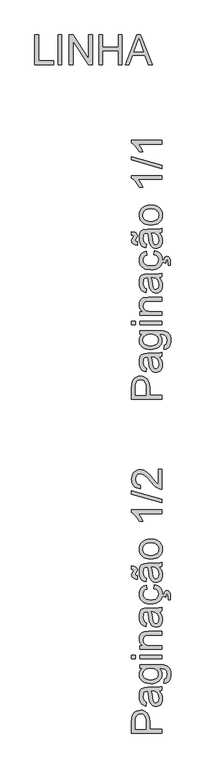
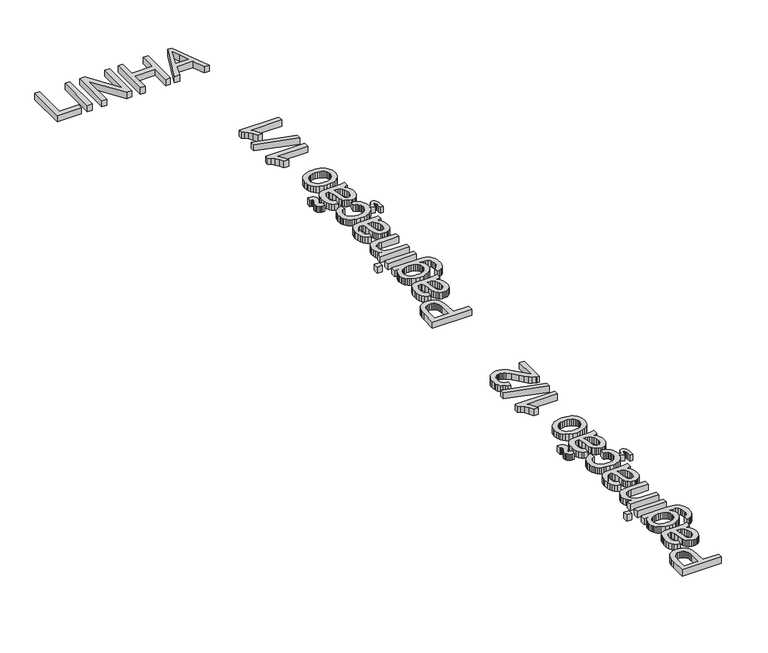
"""IFC4 building model written with IfcOpenShell, lengths in millimetres: proxy geometry, Tabela3D-2LINHAS : Tabela3D-2LINHAS."""

from ifc_helpers import new_model, si_unit, origin, origin_with_axes, place, context, project, spatial, polyline, outline, extrude, source, transform, mapped, element, save


def generic_models_ffd6414f(model_context):
    return source(origin(), model_context, "Body", "SweptSolid", [
        extrude(outline(polyline([(2936.9308298, 7252.3459709), (2334.1929689, 7252.3459709), (2334.1929689, 7475.7239184), (2335.6277087, 7527.7424325), (2339.9319281, 7565.7814308), (2350.6556882, 7605.9357506), (2368.1116889, 7638.9899478), (2393.0908764, 7665.6062102), (2426.3841969, 7686.4467252), (2465.6555999, 7699.9112062), (2508.5690347, 7704.3993666), (2545.5687663, 7701.3689386), (2579.6070479, 7692.2776548), (2610.6838795, 7677.1255152), (2638.7992609, 7655.9125196), (2662.1045853, 7626.7900612), (2678.7512456, 7587.9095328), (2688.7392418, 7539.2709345), (2692.0685738, 7480.8742663), (2692.0685738, 7327.6882035), (2936.9308298, 7327.6882035), (2936.9308298, 7252.3459709)]), holes=[polyline([(2616.7263412, 7327.6882035), (2616.7263412, 7485.2888503), (2614.9972959, 7521.5252268), (2609.8101597, 7552.0962206), (2601.1649328, 7577.0018316), (2589.0616152, 7596.24206), (2573.8221035, 7610.5986549), (2555.7682946, 7620.8533655), (2534.9001885, 7627.0061918), (2511.217785, 7629.057134), (2477.3726415, 7624.2194857), (2448.8249986, 7609.706541), (2427.3406901, 7587.3209216), (2414.6855495, 7558.8652493), (2410.8227885, 7529.8025717), (2409.5352016, 7483.5230167), (2409.5352016, 7327.6882035), (2616.7263412, 7327.6882035)])]), origin_with_axes(), (0.0, 0.0, 1.0), 100.0),
        extrude(outline(polyline([(2880.4241554, 8081.1105296), (2911.2894548, 8045.1132764), (2931.4861763, 8008.0491654), (2942.6330008, 7969.072068), (2946.3486089, 7927.3358557), (2944.1137258, 7893.7896162), (2937.4090764, 7864.3728522), (2926.2346608, 7839.0855635), (2910.590479, 7817.9277503), (2891.4698123, 7801.2213092), (2869.8659421, 7789.288137), (2845.7788685, 7782.1282336), (2819.2085914, 7779.7415992), (2787.97541, 7783.3468427), (2759.6117082, 7794.1625734), (2735.3314965, 7810.8460219), (2716.3487855, 7832.0544189), (2702.0013877, 7856.9784241), (2691.6271155, 7884.808697), (2680.29635, 7949.9973866), (2668.3769734, 8027.0318763), (2654.3974575, 8080.6690712), (2637.6220386, 8081.1105296), (2603.9976242, 8075.9233935), (2591.5448187, 8069.4394733), (2581.9982809, 8060.3619851), (2572.4701372, 8044.671818), (2565.6643203, 8025.5603484), (2560.2196668, 7977.0735014), (2563.8433044, 7932.191898), (2574.7142174, 7900.848352), (2594.8189684, 7879.4744081), (2626.1441203, 7864.5016109), (2616.7263412, 7789.1593783), (2575.5235578, 7802.2375832), (2543.1499422, 7821.753723), (2518.3914839, 7849.5288137), (2500.0341724, 7887.383871), (2488.6666187, 7933.6818201), (2484.8774342, 7986.7855861), (2488.2251603, 8037.7188483), (2498.2683388, 8078.0938973), (2513.3698947, 8108.5361324), (2531.8927531, 8129.670953), (2554.7934073, 8143.687257), (2583.0283505, 8152.7739423), (2648.952804, 8156.4527623), (2742.6891364, 8156.4527623), (2873.5815503, 8160.278735), (2905.9367717, 8165.9441177), (2936.9308298, 8175.2883204), (2936.9308298, 8099.9460878), (2910.7376318, 8087.8795584), (2880.4241554, 8081.1105296)]), holes=[polyline([(2729.7396902, 8081.1105296), (2742.2844662, 8030.4899671), (2752.8426795, 7959.5623184), (2765.0563617, 7894.7415109), (2773.407283, 7877.8741214), (2784.9219894, 7865.3845277), (2798.7175643, 7857.6590058), (2813.9110907, 7855.0838318), (2836.3151042, 7860.6940322), (2854.6724157, 7877.5246335), (2866.9228862, 7905.2077536), (2871.0063763, 7943.3755106), (2866.4998219, 7983.8425301), (2852.9801585, 8019.60066), (2833.0593485, 8048.5897613), (2809.3493539, 8068.7496946), (2784.9219894, 8077.6892271), (2751.0768459, 8080.6690712), (2729.7396902, 8081.1105296)])]), origin_with_axes(), (0.0, 0.0, 1.0), 100.0),
        extrude(outline(polyline([(2974.6019461, 8241.2127739), (2984.0197252, 8316.5550066), (3007.5641729, 8324.8691396), (3023.7509807, 8340.982371), (3036.3325449, 8372.6570108), (3040.5263997, 8414.1173117), (3035.7807219, 8458.3367275), (3029.8486248, 8476.1973984), (3021.5436887, 8491.2253779), (2998.735005, 8514.0340616), (2968.2743758, 8528.0135774), (2935.8639721, 8532.0970675), (2880.4241554, 8533.1639253), (2905.1458255, 8508.0927673), (2922.8041612, 8480.1153416), (2933.3991627, 8449.2316481), (2936.9308298, 8415.4416869), (2932.8197485, 8374.1331373), (2920.4865047, 8337.7634036), (2899.9310982, 8306.3324856), (2871.1535291, 8279.8403834), (2836.6278039, 8258.8205259), (2798.8279288, 8243.806342), (2757.7539041, 8234.7978316), (2713.4057296, 8231.7949949), (2652.5764417, 8237.1844661), (2596.6399843, 8253.3528798), (2571.417075, 8265.3366358), (2549.2383892, 8279.7300188), (2530.1039269, 8296.533029), (2514.0136882, 8315.7456662), (2501.2665771, 8337.0598293), (2492.1614977, 8360.1674171), (2486.69845, 8385.0684296), (2484.8774342, 8411.7628669), (2488.9977125, 8446.996765), (2501.3585475, 8478.9749074), (2521.9599393, 8507.6972942), (2550.8018877, 8533.1639253), (2494.2952132, 8533.1639253), (2494.2952132, 8608.5061579), (2876.4510298, 8608.5061579), (2964.6875264, 8603.35581), (2997.5071989, 8596.9178751), (3022.7944875, 8587.9047662), (3043.1889456, 8576.1003527), (3061.3301265, 8561.2885038), (3077.2180302, 8543.4692197), (3090.8526566, 8522.6425002), (3101.797146, 8499.0198776), (3109.6146384, 8472.812884), (3114.3051338, 8444.0215194), (3115.8686323, 8412.6457837), (3113.6659388, 8375.733424), (3107.0578585, 8342.5458695), (3096.0443913, 8313.0831202), (3080.6255372, 8287.3451761), (3060.782902, 8266.5552449), (3036.4980918, 8251.9365341), (3007.7711065, 8243.4890438), (2974.6019461, 8241.2127739)]), holes=[polyline([(2708.2553816, 8307.1372275), (2745.5080322, 8309.1467829), (2777.3620144, 8315.1754491), (2803.8173284, 8325.2232261), (2824.8739741, 8339.2901139), (2840.9366217, 8356.3920281), (2852.4099414, 8375.5448845), (2859.2939333, 8396.748683), (2861.5885972, 8420.0034236), (2859.3077289, 8443.028238), (2852.4651237, 8464.1308689), (2841.0607819, 8483.3113164), (2825.0947033, 8500.5695805), (2804.2449912, 8514.8296064), (2778.1897489, 8525.0153391), (2746.9289764, 8531.1267788), (2710.4626736, 8533.1639253), (2675.5184826, 8531.0669979), (2645.1452254, 8524.7762158), (2619.3429019, 8514.291579), (2598.1115123, 8499.6130874), (2581.5338299, 8481.9823427), (2569.6926282, 8462.6409468), (2562.5879071, 8441.5888997), (2560.2196668, 8418.8262012), (2562.5511189, 8396.4451803), (2569.5454754, 8375.8024019), (2581.2027361, 8356.8978658), (2597.5229011, 8339.7315722), (2618.432394, 8325.4715464), (2643.8576384, 8315.2858137), (2673.7986343, 8309.174374), (2708.2553816, 8307.1372275)])]), origin_with_axes(), (0.0, 0.0, 1.0), 100.0),
        extrude(outline(polyline([(2409.5352016, 8721.5195068), (2334.1929689, 8721.5195068), (2334.1929689, 8796.8617395), (2409.5352016, 8796.8617395), (2409.5352016, 8721.5195068)])), origin_with_axes(), (0.0, 0.0, 1.0), 100.0),
        extrude(outline(polyline([(2936.9308298, 8721.5195068), (2494.2952132, 8721.5195068), (2494.2952132, 8796.8617395), (2936.9308298, 8796.8617395), (2936.9308298, 8721.5195068)])), origin_with_axes(), (0.0, 0.0, 1.0), 100.0),
        extrude(outline(polyline([(2936.9308298, 8909.8750884), (2494.2952132, 8909.8750884), (2494.2952132, 8985.217321), (2556.0993884, 8985.217321), (2524.9397834, 9011.3921249), (2502.6829227, 9042.8276414), (2489.3288063, 9079.5238704), (2484.8774342, 9121.480812), (2488.4642836, 9158.6184994), (2499.224832, 9192.6291899), (2515.81631, 9220.9928917), (2536.8959483, 9241.1896132), (2562.4085646, 9254.8932175), (2592.2989768, 9263.7775677), (2665.1396118, 9267.7506933), (2936.9308298, 9267.7506933), (2936.9308298, 9192.4084607), (2675.2931549, 9192.4084607), (2636.3344516, 9190.2379569), (2608.6329373, 9183.7264456), (2588.7857037, 9171.7150984), (2573.3898422, 9153.0450872), (2563.5122106, 9129.1143634), (2560.2196668, 9101.3208787), (2562.0682738, 9078.4432171), (2567.6140949, 9057.1934333), (2576.85713, 9037.5715274), (2589.7973792, 9019.5774993), (2607.9063704, 9004.5449213), (2632.6556316, 8993.8073656), (2664.0451629, 8987.3648321), (2702.0749641, 8985.217321), (2936.9308298, 8985.217321), (2936.9308298, 8909.8750884)])), origin_with_axes(), (0.0, 0.0, 1.0), 100.0),
        extrude(outline(polyline([(2880.4241554, 9653.8796354), (2911.2894548, 9617.8823822), (2931.4861763, 9580.8182712), (2942.6330008, 9541.8411738), (2946.3486089, 9500.1049614), (2944.1137258, 9466.558722), (2937.4090764, 9437.141958), (2926.2346608, 9411.8546693), (2910.590479, 9390.6968561), (2891.4698123, 9373.990415), (2869.8659421, 9362.0572427), (2845.7788685, 9354.8973394), (2819.2085914, 9352.510705), (2787.97541, 9356.1159485), (2759.6117082, 9366.9316792), (2735.3314965, 9383.6151277), (2716.3487855, 9404.8235247), (2702.0013877, 9429.7475299), (2691.6271155, 9457.5778028), (2680.29635, 9522.7664923), (2668.3769734, 9599.8009821), (2654.3974575, 9653.438177), (2637.6220386, 9653.8796354), (2603.9976242, 9648.6924993), (2591.5448187, 9642.2085791), (2581.9982809, 9633.1310909), (2572.4701372, 9617.4409238), (2565.6643203, 9598.3294541), (2560.2196668, 9549.8426072), (2563.8433044, 9504.9610038), (2574.7142174, 9473.6174578), (2594.8189684, 9452.2435139), (2626.1441203, 9437.2707167), (2616.7263412, 9361.928484), (2575.5235578, 9375.006689), (2543.1499422, 9394.5228288), (2518.3914839, 9422.2979195), (2500.0341724, 9460.1529768), (2488.6666187, 9506.4509259), (2484.8774342, 9559.5546919), (2488.2251603, 9610.4879541), (2498.2683388, 9650.8630031), (2513.3698947, 9681.3052382), (2531.8927531, 9702.4400588), (2554.7934073, 9716.4563628), (2583.0283505, 9725.5430481), (2648.952804, 9729.221868), (2742.6891364, 9729.221868), (2873.5815503, 9733.0478408), (2905.9367717, 9738.7132235), (2936.9308298, 9748.0574262), (2936.9308298, 9672.7151936), (2910.7376318, 9660.6486641), (2880.4241554, 9653.8796354)]), holes=[polyline([(2729.7396902, 9653.8796354), (2742.2844662, 9603.2590729), (2752.8426795, 9532.3314242), (2765.0563617, 9467.5106167), (2773.407283, 9450.6432272), (2784.9219894, 9438.1536334), (2798.7175643, 9430.4281115), (2813.9110907, 9427.8529376), (2836.3151042, 9433.463138), (2854.6724157, 9450.2937393), (2866.9228862, 9477.9768594), (2871.0063763, 9516.1446164), (2866.4998219, 9556.6116359), (2852.9801585, 9592.3697658), (2833.0593485, 9621.358867), (2809.3493539, 9641.5188004), (2784.9219894, 9650.4583329), (2751.0768459, 9653.438177), (2729.7396902, 9653.8796354)])]), origin_with_axes(), (0.0, 0.0, 1.0), 100.0),
        extrude(outline(polyline([(2776.8285855, 10115.3508102), (2786.2463646, 10190.6930428), (2821.7975609, 10182.4984713), (2853.25607, 10169.6869809), (2880.621892, 10152.2585713), (2903.8950267, 10130.2132428), (2922.4684689, 10104.4798972), (2935.7352134, 10075.9874367), (2943.69526, 10044.7358612), (2946.3486089, 10010.7251707), (2946.1709626, 10008.6973547), (2977.8393077, 9998.2171829), (2984.7554892, 10032.154297), (2997.8520882, 10057.1518785), (3014.958601, 10072.54774), (3033.9045238, 10077.6796939), (3047.8288573, 10075.8218898), (3060.9070622, 10070.2484776), (3073.1391386, 10060.9594572), (3084.5250863, 10047.9548287), (3094.1176093, 10031.1978038), (3100.9694115, 10010.6515943), (3106.4508532, 9958.1916218), (3106.4508532, 9898.7418914), (3059.3619578, 9898.7418914), (3059.3619578, 9940.3861333), (3057.1914541, 9975.8499576), (3050.6799427, 9998.9529469), (3043.3223028, 10008.554667), (3034.493135, 10011.7552403), (3023.8245571, 10006.6048924), (3015.878306, 9987.548605), (3012.2730625, 9943.476342), (2941.1816396, 9963.4708047), (2931.5413586, 9930.5820781), (2913.0322957, 9897.0634298), (2887.1196077, 9867.9133802), (2854.2907381, 9844.3183487), (2815.0331307, 9827.4647548), (2769.3467855, 9817.3525985), (2717.2317023, 9813.9818797), (2650.1852087, 9819.7392329), (2620.0142866, 9826.9359245), (2592.0782476, 9837.0112926), (2566.9381117, 9850.0343152), (2545.1548991, 9866.0739702), (2526.7286096, 9885.1302576), (2511.6592434, 9907.2031773), (2499.9422019, 9931.2948495), (2491.5728865, 9956.4073942), (2486.5512972, 9982.5408114), (2484.8774342, 10009.6951012), (2487.1766966, 10043.1217789), (2494.074484, 10073.3570804), (2505.5707964, 10100.4010056), (2521.6656337, 10124.2535545), (2541.9911139, 10144.5100568), (2566.1793551, 10160.7658425), (2594.2303572, 10173.0209114), (2626.1441203, 10181.2752637), (2635.5618994, 10105.9330311), (2602.6916431, 10092.266215), (2579.1288013, 10070.9842416), (2564.9469504, 10043.2643332), (2560.2196668, 10010.2837123), (2562.5465204, 9984.683724), (2569.5270813, 9961.5945303), (2581.1613494, 9941.0161312), (2597.4493247, 9922.9485267), (2618.7680863, 9908.2378454), (2645.4947133, 9897.7302159), (2677.6292055, 9891.4256382), (2715.1715631, 9889.3241123), (2753.2795393, 9891.379653), (2785.7865121, 9897.5462749), (2812.6924815, 9907.8239782), (2833.9974476, 9922.2127627), (2850.1888539, 9939.9216822), (2861.7541441, 9960.1597905), (2868.6933183, 9982.9270875), (2871.0063763, 10008.2235732), (2865.230629, 10047.2374588), (2858.0109448, 10064.1094468), (2847.903387, 10079.2247982), (2834.7975909, 10092.1604489), (2818.583192, 10102.4933344), (2799.2601902, 10110.2234549), (2776.8285855, 10115.3508102)])), origin_with_axes(), (0.0, 0.0, 1.0), 100.0),
        extrude(outline(polyline([(2447.2063179, 10303.7063917), (2422.7513622, 10305.058358), (2400.8899747, 10309.4085626), (2381.6221552, 10316.7570055), (2364.9479037, 10327.1036866), (2351.4926198, 10339.6208715), (2341.8817026, 10353.7751312), (2336.1151524, 10369.5664659), (2334.1929689, 10386.9948754), (2340.2630219, 10414.8067542), (2358.4731806, 10447.3275226), (2368.5163591, 10464.5076118), (2371.8640852, 10477.7881518), (2369.969493, 10487.0035958), (2364.2857161, 10493.7542304), (2352.9733448, 10498.4447258), (2334.1929689, 10501.4797523), (2334.1929689, 10567.4042058), (2383.6363091, 10560.8375122), (2403.0604784, 10553.512062), (2418.9529806, 10543.4918762), (2431.3138157, 10531.3563688), (2440.1429836, 10517.6849542), (2445.4404843, 10502.4776322), (2447.2063179, 10485.7344029), (2441.4673587, 10457.7385831), (2424.2504814, 10426.1375197), (2413.2140215, 10407.3019615), (2409.5352016, 10394.3525153), (2411.9264345, 10384.346125), (2419.1001334, 10376.3998739), (2430.8355691, 10371.1759496), (2447.2063179, 10369.6308452), (2447.2063179, 10303.7063917)])), origin_with_axes(), (0.0, 0.0, 1.0), 100.0),
        extrude(outline(polyline([(2880.4241554, 10539.1508686), (2911.2894548, 10503.1536154), (2931.4861763, 10466.0895044), (2942.6330008, 10427.112407), (2946.3486089, 10385.3761946), (2944.1137258, 10351.8299552), (2937.4090764, 10322.4131912), (2926.2346608, 10297.1259025), (2910.590479, 10275.9680893), (2891.4698123, 10259.2616482), (2869.8659421, 10247.3284759), (2845.7788685, 10240.1685726), (2819.2085914, 10237.7819382), (2787.97541, 10241.3871817), (2759.6117082, 10252.2029124), (2735.3314965, 10268.8863609), (2716.3487855, 10290.0947579), (2702.0013877, 10315.0187631), (2691.6271155, 10342.849036), (2680.29635, 10408.0377255), (2668.3769734, 10485.0722153), (2654.3974575, 10538.7094102), (2637.6220386, 10539.1508686), (2603.9976242, 10533.9637325), (2591.5448187, 10527.4798123), (2581.9982809, 10518.4023241), (2572.4701372, 10502.712157), (2565.6643203, 10483.6006873), (2560.2196668, 10435.1138404), (2563.8433044, 10390.232237), (2574.7142174, 10358.888691), (2594.8189684, 10337.5147471), (2626.1441203, 10322.5419499), (2616.7263412, 10247.1997172), (2575.5235578, 10260.2779222), (2543.1499422, 10279.794062), (2518.3914839, 10307.5691526), (2500.0341724, 10345.42421), (2488.6666187, 10391.722159), (2484.8774342, 10444.825925), (2488.2251603, 10495.7591873), (2498.2683388, 10536.1342363), (2513.3698947, 10566.5764714), (2531.8927531, 10587.711292), (2554.7934073, 10601.727596), (2583.0283505, 10610.8142813), (2648.952804, 10614.4931012), (2742.6891364, 10614.4931012), (2873.5815503, 10618.319074), (2905.9367717, 10623.9844567), (2936.9308298, 10633.3286594), (2936.9308298, 10557.9864268), (2910.7376318, 10545.9198973), (2880.4241554, 10539.1508686)]), holes=[polyline([(2729.7396902, 10539.1508686), (2742.2844662, 10488.5303061), (2752.8426795, 10417.6026574), (2765.0563617, 10352.7818499), (2773.407283, 10335.9144604), (2784.9219894, 10323.4248666), (2798.7175643, 10315.6993447), (2813.9110907, 10313.1241708), (2836.3151042, 10318.7343712), (2854.6724157, 10335.5649725), (2866.9228862, 10363.2480926), (2871.0063763, 10401.4158496), (2866.4998219, 10441.8828691), (2852.9801585, 10477.640999), (2833.0593485, 10506.6301002), (2809.3493539, 10526.7900336), (2784.9219894, 10535.7295661), (2751.0768459, 10538.7094102), (2729.7396902, 10539.1508686)])]), origin_with_axes(), (0.0, 0.0, 1.0), 100.0),
        extrude(outline(polyline([(2715.6130215, 10699.2531129), (2658.2878096, 10703.327406), (2608.8904547, 10715.5502853), (2567.4209568, 10735.9217508), (2533.8793159, 10764.4418025), (2512.4409927, 10793.1549922), (2497.1279046, 10824.8480261), (2487.9400518, 10859.5209041), (2484.8774342, 10897.1736263), (2488.6068379, 10938.7396932), (2499.7950491, 10976.3234376), (2518.4420677, 11009.9248593), (2544.5478938, 11039.5439585), (2577.2296105, 11063.7184041), (2615.6043012, 11080.9858652), (2659.6719656, 11091.3463419), (2709.432604, 11094.7998341), (2749.7616677, 11093.2731238), (2785.5473888, 11088.692993), (2816.7897673, 11081.0594416), (2843.4888031, 11070.3724696), (2866.5504056, 11056.7654344), (2886.8804844, 11040.3716929), (2904.4790393, 11021.1912454), (2919.3460705, 10999.2240918), (2931.159681, 10975.3255577), (2939.5979743, 10950.3509687), (2944.6609503, 10924.3003249), (2946.3486089, 10897.1736263), (2942.6330008, 10855.0005541), (2931.4861763, 10817.0673219), (2912.9081356, 10783.3739296), (2886.8988785, 10753.9203774), (2853.8998635, 10730.0034492), (2814.352549, 10712.919929), (2768.256935, 10702.6698169), (2715.6130215, 10699.2531129)]), holes=[polyline([(2715.4658687, 10774.5953455), (2752.0103464, 10776.7750463), (2783.6527965, 10783.3141488), (2810.3932191, 10794.2126529), (2832.231614, 10809.4705587), (2849.1955725, 10828.0302053), (2861.3126857, 10848.8339322), (2868.5829537, 10871.8817391), (2871.0063763, 10897.1736263), (2868.5691581, 10922.3367548), (2861.2575034, 10945.2925913), (2849.0714123, 10966.0411358), (2832.0108848, 10984.5823884), (2809.9563592, 10999.8402941), (2782.7882739, 11010.7387982), (2750.5066288, 11017.2779007), (2713.111424, 11019.4576015), (2677.7257746, 11017.2641051), (2646.9110589, 11010.6836159), (2620.6672771, 10999.7161339), (2598.9944291, 10984.3616592), (2582.0304706, 10965.7514287), (2569.9133574, 10945.0166798), (2562.6430894, 10922.1574123), (2560.2196668, 10897.1736263), (2562.6338924, 10871.8817391), (2569.8765692, 10848.8339322), (2581.9476971, 10828.0302053), (2598.8472763, 10809.4705587), (2620.6212919, 10794.2126529), (2647.3157291, 10783.3141488), (2678.9305881, 10776.7750463), (2715.4658687, 10774.5953455)])]), origin_with_axes(), (0.0, 0.0, 1.0), 100.0),
        extrude(outline(polyline([(2936.9308298, 11678.7021369), (2936.9308298, 11603.3599043), (2467.2190984, 11603.3599043), (2492.6581384, 11571.9059937), (2518.0603901, 11531.9907972), (2540.2620685, 11490.0890379), (2556.0993884, 11452.675439), (2484.8774342, 11452.675439), (2452.6877596, 11511.849258), (2414.3912439, 11563.113614), (2373.666707, 11603.5254512), (2334.1929689, 11630.1417135), (2334.1929689, 11678.7021369), (2936.9308298, 11678.7021369)])), origin_with_axes(), (0.0, 0.0, 1.0), 100.0),
        extrude(outline(polyline([(2936.9308298, 11819.968823), (2334.1929689, 11989.4888464), (2334.1929689, 12057.4734391), (2936.9308298, 11887.9534157), (2936.9308298, 11819.968823)])), origin_with_axes(), (0.0, 0.0, 1.0), 100.0),
        extrude(outline(polyline([(2936.9308298, 12375.6177885), (2936.9308298, 12300.2755559), (2467.2190984, 12300.2755559), (2492.6581384, 12268.8216453), (2518.0603901, 12228.9064489), (2540.2620685, 12187.0046896), (2556.0993884, 12149.5910907), (2484.8774342, 12149.5910907), (2452.6877596, 12208.7649096), (2414.3912439, 12260.0292657), (2373.666707, 12300.4411028), (2334.1929689, 12327.0573652), (2334.1929689, 12375.6177885), (2936.9308298, 12375.6177885)])), origin_with_axes(), (0.0, 0.0, 1.0), 100.0),
        extrude(outline(polyline([(2936.9308298, 632.3459709), (2334.1929689, 632.3459709), (2334.1929689, 855.7239184), (2335.6277087, 907.7424325), (2339.9319281, 945.7814308), (2350.6556882, 985.9357506), (2368.1116889, 1018.9899478), (2393.0908764, 1045.6062102), (2426.3841969, 1066.4467252), (2465.6555999, 1079.9112062), (2508.5690347, 1084.3993666), (2545.5687663, 1081.3689386), (2579.6070479, 1072.2776548), (2610.6838795, 1057.1255152), (2638.7992609, 1035.9125196), (2662.1045853, 1006.7900612), (2678.7512456, 967.9095328), (2688.7392418, 919.2709345), (2692.0685738, 860.8742663), (2692.0685738, 707.6882035), (2936.9308298, 707.6882035), (2936.9308298, 632.3459709)]), holes=[polyline([(2616.7263412, 707.6882035), (2616.7263412, 865.2888503), (2614.9972959, 901.5252268), (2609.8101597, 932.0962206), (2601.1649328, 957.0018316), (2589.0616152, 976.24206), (2573.8221035, 990.5986549), (2555.7682946, 1000.8533655), (2534.9001885, 1007.0061918), (2511.217785, 1009.057134), (2477.3726415, 1004.2194857), (2448.8249986, 989.706541), (2427.3406901, 967.3209216), (2414.6855495, 938.8652493), (2410.8227885, 909.8025717), (2409.5352016, 863.5230167), (2409.5352016, 707.6882035), (2616.7263412, 707.6882035)])]), origin_with_axes(), (0.0, 0.0, 1.0), 100.0),
        extrude(outline(polyline([(2880.4241554, 1461.1105296), (2911.2894548, 1425.1132764), (2931.4861763, 1388.0491654), (2942.6330008, 1349.072068), (2946.3486089, 1307.3358557), (2944.1137258, 1273.7896162), (2937.4090764, 1244.3728522), (2926.2346608, 1219.0855635), (2910.590479, 1197.9277503), (2891.4698123, 1181.2213092), (2869.8659421, 1169.288137), (2845.7788685, 1162.1282336), (2819.2085914, 1159.7415992), (2787.97541, 1163.3468427), (2759.6117082, 1174.1625734), (2735.3314965, 1190.8460219), (2716.3487855, 1212.0544189), (2702.0013877, 1236.9784241), (2691.6271155, 1264.808697), (2680.29635, 1329.9973866), (2668.3769734, 1407.0318763), (2654.3974575, 1460.6690712), (2637.6220386, 1461.1105296), (2603.9976242, 1455.9233935), (2591.5448187, 1449.4394733), (2581.9982809, 1440.3619851), (2572.4701372, 1424.671818), (2565.6643203, 1405.5603484), (2560.2196668, 1357.0735014), (2563.8433044, 1312.191898), (2574.7142174, 1280.848352), (2594.8189684, 1259.4744081), (2626.1441203, 1244.5016109), (2616.7263412, 1169.1593783), (2575.5235578, 1182.2375832), (2543.1499422, 1201.753723), (2518.3914839, 1229.5288137), (2500.0341724, 1267.383871), (2488.6666187, 1313.6818201), (2484.8774342, 1366.7855861), (2488.2251603, 1417.7188483), (2498.2683388, 1458.0938973), (2513.3698947, 1488.5361324), (2531.8927531, 1509.670953), (2554.7934073, 1523.687257), (2583.0283505, 1532.7739423), (2648.952804, 1536.4527623), (2742.6891364, 1536.4527623), (2873.5815503, 1540.278735), (2905.9367717, 1545.9441177), (2936.9308298, 1555.2883204), (2936.9308298, 1479.9460878), (2910.7376318, 1467.8795584), (2880.4241554, 1461.1105296)]), holes=[polyline([(2729.7396902, 1461.1105296), (2742.2844662, 1410.4899671), (2752.8426795, 1339.5623184), (2765.0563617, 1274.7415109), (2773.407283, 1257.8741214), (2784.9219894, 1245.3845277), (2798.7175643, 1237.6590058), (2813.9110907, 1235.0838318), (2836.3151042, 1240.6940322), (2854.6724157, 1257.5246335), (2866.9228862, 1285.2077536), (2871.0063763, 1323.3755106), (2866.4998219, 1363.8425301), (2852.9801585, 1399.60066), (2833.0593485, 1428.5897613), (2809.3493539, 1448.7496946), (2784.9219894, 1457.6892271), (2751.0768459, 1460.6690712), (2729.7396902, 1461.1105296)])]), origin_with_axes(), (0.0, 0.0, 1.0), 100.0),
        extrude(outline(polyline([(2974.6019461, 1621.2127739), (2984.0197252, 1696.5550066), (3007.5641729, 1704.8691396), (3023.7509807, 1720.982371), (3036.3325449, 1752.6570108), (3040.5263997, 1794.1173117), (3035.7807219, 1838.3367275), (3029.8486248, 1856.1973984), (3021.5436887, 1871.2253779), (2998.735005, 1894.0340616), (2968.2743758, 1908.0135774), (2935.8639721, 1912.0970675), (2880.4241554, 1913.1639253), (2905.1458255, 1888.0927673), (2922.8041612, 1860.1153416), (2933.3991627, 1829.2316481), (2936.9308298, 1795.4416869), (2932.8197485, 1754.1331373), (2920.4865047, 1717.7634036), (2899.9310982, 1686.3324856), (2871.1535291, 1659.8403834), (2836.6278039, 1638.8205259), (2798.8279288, 1623.806342), (2757.7539041, 1614.7978316), (2713.4057296, 1611.7949949), (2652.5764417, 1617.1844661), (2596.6399843, 1633.3528798), (2571.417075, 1645.3366358), (2549.2383892, 1659.7300188), (2530.1039269, 1676.533029), (2514.0136882, 1695.7456662), (2501.2665771, 1717.0598293), (2492.1614977, 1740.1674171), (2486.69845, 1765.0684296), (2484.8774342, 1791.7628669), (2488.9977125, 1826.996765), (2501.3585475, 1858.9749074), (2521.9599393, 1887.6972942), (2550.8018877, 1913.1639253), (2494.2952132, 1913.1639253), (2494.2952132, 1988.5061579), (2876.4510298, 1988.5061579), (2964.6875264, 1983.35581), (2997.5071989, 1976.9178751), (3022.7944875, 1967.9047662), (3043.1889456, 1956.1003527), (3061.3301265, 1941.2885038), (3077.2180302, 1923.4692197), (3090.8526566, 1902.6425002), (3101.797146, 1879.0198776), (3109.6146384, 1852.812884), (3114.3051338, 1824.0215194), (3115.8686323, 1792.6457837), (3113.6659388, 1755.733424), (3107.0578585, 1722.5458695), (3096.0443913, 1693.0831202), (3080.6255372, 1667.3451761), (3060.782902, 1646.5552449), (3036.4980918, 1631.9365341), (3007.7711065, 1623.4890438), (2974.6019461, 1621.2127739)]), holes=[polyline([(2708.2553816, 1687.1372275), (2745.5080322, 1689.1467829), (2777.3620144, 1695.1754491), (2803.8173284, 1705.2232261), (2824.8739741, 1719.2901139), (2840.9366217, 1736.3920281), (2852.4099414, 1755.5448845), (2859.2939333, 1776.748683), (2861.5885972, 1800.0034236), (2859.3077289, 1823.028238), (2852.4651237, 1844.1308689), (2841.0607819, 1863.3113164), (2825.0947033, 1880.5695805), (2804.2449912, 1894.8296064), (2778.1897489, 1905.0153391), (2746.9289764, 1911.1267788), (2710.4626736, 1913.1639253), (2675.5184826, 1911.0669979), (2645.1452254, 1904.7762158), (2619.3429019, 1894.291579), (2598.1115123, 1879.6130874), (2581.5338299, 1861.9823427), (2569.6926282, 1842.6409468), (2562.5879071, 1821.5888997), (2560.2196668, 1798.8262012), (2562.5511189, 1776.4451803), (2569.5454754, 1755.8024019), (2581.2027361, 1736.8978658), (2597.5229011, 1719.7315722), (2618.432394, 1705.4715464), (2643.8576384, 1695.2858137), (2673.7986343, 1689.174374), (2708.2553816, 1687.1372275)])]), origin_with_axes(), (0.0, 0.0, 1.0), 100.0),
        extrude(outline(polyline([(2409.5352016, 2101.5195068), (2334.1929689, 2101.5195068), (2334.1929689, 2176.8617395), (2409.5352016, 2176.8617395), (2409.5352016, 2101.5195068)])), origin_with_axes(), (0.0, 0.0, 1.0), 100.0),
        extrude(outline(polyline([(2936.9308298, 2101.5195068), (2494.2952132, 2101.5195068), (2494.2952132, 2176.8617395), (2936.9308298, 2176.8617395), (2936.9308298, 2101.5195068)])), origin_with_axes(), (0.0, 0.0, 1.0), 100.0),
        extrude(outline(polyline([(2936.9308298, 2289.8750884), (2494.2952132, 2289.8750884), (2494.2952132, 2365.217321), (2556.0993884, 2365.217321), (2524.9397834, 2391.3921249), (2502.6829227, 2422.8276414), (2489.3288063, 2459.5238704), (2484.8774342, 2501.480812), (2488.4642836, 2538.6184994), (2499.224832, 2572.6291899), (2515.81631, 2600.9928917), (2536.8959483, 2621.1896132), (2562.4085646, 2634.8932175), (2592.2989768, 2643.7775677), (2665.1396118, 2647.7506933), (2936.9308298, 2647.7506933), (2936.9308298, 2572.4084607), (2675.2931549, 2572.4084607), (2636.3344516, 2570.2379569), (2608.6329373, 2563.7264456), (2588.7857037, 2551.7150984), (2573.3898422, 2533.0450872), (2563.5122106, 2509.1143634), (2560.2196668, 2481.3208787), (2562.0682738, 2458.4432171), (2567.6140949, 2437.1934333), (2576.85713, 2417.5715274), (2589.7973792, 2399.5774993), (2607.9063704, 2384.5449213), (2632.6556316, 2373.8073656), (2664.0451629, 2367.3648321), (2702.0749641, 2365.217321), (2936.9308298, 2365.217321), (2936.9308298, 2289.8750884)])), origin_with_axes(), (0.0, 0.0, 1.0), 100.0),
        extrude(outline(polyline([(2880.4241554, 3033.8796354), (2911.2894548, 2997.8823822), (2931.4861763, 2960.8182712), (2942.6330008, 2921.8411738), (2946.3486089, 2880.1049614), (2944.1137258, 2846.558722), (2937.4090764, 2817.141958), (2926.2346608, 2791.8546693), (2910.590479, 2770.6968561), (2891.4698123, 2753.990415), (2869.8659421, 2742.0572427), (2845.7788685, 2734.8973394), (2819.2085914, 2732.510705), (2787.97541, 2736.1159485), (2759.6117082, 2746.9316792), (2735.3314965, 2763.6151277), (2716.3487855, 2784.8235247), (2702.0013877, 2809.7475299), (2691.6271155, 2837.5778028), (2680.29635, 2902.7664923), (2668.3769734, 2979.8009821), (2654.3974575, 3033.438177), (2637.6220386, 3033.8796354), (2603.9976242, 3028.6924993), (2591.5448187, 3022.2085791), (2581.9982809, 3013.1310909), (2572.4701372, 2997.4409238), (2565.6643203, 2978.3294541), (2560.2196668, 2929.8426072), (2563.8433044, 2884.9610038), (2574.7142174, 2853.6174578), (2594.8189684, 2832.2435139), (2626.1441203, 2817.2707167), (2616.7263412, 2741.928484), (2575.5235578, 2755.006689), (2543.1499422, 2774.5228288), (2518.3914839, 2802.2979195), (2500.0341724, 2840.1529768), (2488.6666187, 2886.4509259), (2484.8774342, 2939.5546919), (2488.2251603, 2990.4879541), (2498.2683388, 3030.8630031), (2513.3698947, 3061.3052382), (2531.8927531, 3082.4400588), (2554.7934073, 3096.4563628), (2583.0283505, 3105.5430481), (2648.952804, 3109.221868), (2742.6891364, 3109.221868), (2873.5815503, 3113.0478408), (2905.9367717, 3118.7132235), (2936.9308298, 3128.0574262), (2936.9308298, 3052.7151936), (2910.7376318, 3040.6486641), (2880.4241554, 3033.8796354)]), holes=[polyline([(2729.7396902, 3033.8796354), (2742.2844662, 2983.2590729), (2752.8426795, 2912.3314242), (2765.0563617, 2847.5106167), (2773.407283, 2830.6432272), (2784.9219894, 2818.1536334), (2798.7175643, 2810.4281115), (2813.9110907, 2807.8529376), (2836.3151042, 2813.463138), (2854.6724157, 2830.2937393), (2866.9228862, 2857.9768594), (2871.0063763, 2896.1446164), (2866.4998219, 2936.6116359), (2852.9801585, 2972.3697658), (2833.0593485, 3001.358867), (2809.3493539, 3021.5188004), (2784.9219894, 3030.4583329), (2751.0768459, 3033.438177), (2729.7396902, 3033.8796354)])]), origin_with_axes(), (0.0, 0.0, 1.0), 100.0),
        extrude(outline(polyline([(2776.8285855, 3495.3508102), (2786.2463646, 3570.6930428), (2821.7975609, 3562.4984713), (2853.25607, 3549.6869809), (2880.621892, 3532.2585713), (2903.8950267, 3510.2132428), (2922.4684689, 3484.4798972), (2935.7352134, 3455.9874367), (2943.69526, 3424.7358612), (2946.3486089, 3390.7251707), (2946.1709626, 3388.6973547), (2977.8393077, 3378.2171829), (2984.7554892, 3412.154297), (2997.8520882, 3437.1518785), (3014.958601, 3452.54774), (3033.9045238, 3457.6796939), (3047.8288573, 3455.8218898), (3060.9070622, 3450.2484776), (3073.1391386, 3440.9594572), (3084.5250863, 3427.9548287), (3094.1176093, 3411.1978038), (3100.9694115, 3390.6515943), (3106.4508532, 3338.1916218), (3106.4508532, 3278.7418914), (3059.3619578, 3278.7418914), (3059.3619578, 3320.3861333), (3057.1914541, 3355.8499576), (3050.6799427, 3378.9529469), (3043.3223028, 3388.554667), (3034.493135, 3391.7552403), (3023.8245571, 3386.6048924), (3015.878306, 3367.548605), (3012.2730625, 3323.476342), (2941.1816396, 3343.4708047), (2931.5413586, 3310.5820781), (2913.0322957, 3277.0634298), (2887.1196077, 3247.9133802), (2854.2907381, 3224.3183487), (2815.0331307, 3207.4647548), (2769.3467855, 3197.3525985), (2717.2317023, 3193.9818797), (2650.1852087, 3199.7392329), (2620.0142866, 3206.9359245), (2592.0782476, 3217.0112926), (2566.9381117, 3230.0343152), (2545.1548991, 3246.0739702), (2526.7286096, 3265.1302576), (2511.6592434, 3287.2031773), (2499.9422019, 3311.2948495), (2491.5728865, 3336.4073942), (2486.5512972, 3362.5408114), (2484.8774342, 3389.6951012), (2487.1766966, 3423.1217789), (2494.074484, 3453.3570804), (2505.5707964, 3480.4010056), (2521.6656337, 3504.2535545), (2541.9911139, 3524.5100568), (2566.1793551, 3540.7658425), (2594.2303572, 3553.0209114), (2626.1441203, 3561.2752637), (2635.5618994, 3485.9330311), (2602.6916431, 3472.266215), (2579.1288013, 3450.9842416), (2564.9469504, 3423.2643332), (2560.2196668, 3390.2837123), (2562.5465204, 3364.683724), (2569.5270813, 3341.5945303), (2581.1613494, 3321.0161312), (2597.4493247, 3302.9485267), (2618.7680863, 3288.2378454), (2645.4947133, 3277.7302159), (2677.6292055, 3271.4256382), (2715.1715631, 3269.3241123), (2753.2795393, 3271.379653), (2785.7865121, 3277.5462749), (2812.6924815, 3287.8239782), (2833.9974476, 3302.2127627), (2850.1888539, 3319.9216822), (2861.7541441, 3340.1597905), (2868.6933183, 3362.9270875), (2871.0063763, 3388.2235732), (2865.230629, 3427.2374588), (2858.0109448, 3444.1094468), (2847.903387, 3459.2247982), (2834.7975909, 3472.1604489), (2818.583192, 3482.4933344), (2799.2601902, 3490.2234549), (2776.8285855, 3495.3508102)])), origin_with_axes(), (0.0, 0.0, 1.0), 100.0),
        extrude(outline(polyline([(2447.2063179, 3683.7063917), (2422.7513622, 3685.058358), (2400.8899747, 3689.4085626), (2381.6221552, 3696.7570055), (2364.9479037, 3707.1036866), (2351.4926198, 3719.6208715), (2341.8817026, 3733.7751312), (2336.1151524, 3749.5664659), (2334.1929689, 3766.9948754), (2340.2630219, 3794.8067542), (2358.4731806, 3827.3275226), (2368.5163591, 3844.5076118), (2371.8640852, 3857.7881518), (2369.969493, 3867.0035958), (2364.2857161, 3873.7542304), (2352.9733448, 3878.4447258), (2334.1929689, 3881.4797523), (2334.1929689, 3947.4042058), (2383.6363091, 3940.8375122), (2403.0604784, 3933.512062), (2418.9529806, 3923.4918762), (2431.3138157, 3911.3563688), (2440.1429836, 3897.6849542), (2445.4404843, 3882.4776322), (2447.2063179, 3865.7344029), (2441.4673587, 3837.7385831), (2424.2504814, 3806.1375197), (2413.2140215, 3787.3019615), (2409.5352016, 3774.3525153), (2411.9264345, 3764.346125), (2419.1001334, 3756.3998739), (2430.8355691, 3751.1759496), (2447.2063179, 3749.6308452), (2447.2063179, 3683.7063917)])), origin_with_axes(), (0.0, 0.0, 1.0), 100.0),
        extrude(outline(polyline([(2880.4241554, 3919.1508686), (2911.2894548, 3883.1536154), (2931.4861763, 3846.0895044), (2942.6330008, 3807.112407), (2946.3486089, 3765.3761946), (2944.1137258, 3731.8299552), (2937.4090764, 3702.4131912), (2926.2346608, 3677.1259025), (2910.590479, 3655.9680893), (2891.4698123, 3639.2616482), (2869.8659421, 3627.3284759), (2845.7788685, 3620.1685726), (2819.2085914, 3617.7819382), (2787.97541, 3621.3871817), (2759.6117082, 3632.2029124), (2735.3314965, 3648.8863609), (2716.3487855, 3670.0947579), (2702.0013877, 3695.0187631), (2691.6271155, 3722.849036), (2680.29635, 3788.0377255), (2668.3769734, 3865.0722153), (2654.3974575, 3918.7094102), (2637.6220386, 3919.1508686), (2603.9976242, 3913.9637325), (2591.5448187, 3907.4798123), (2581.9982809, 3898.4023241), (2572.4701372, 3882.712157), (2565.6643203, 3863.6006873), (2560.2196668, 3815.1138404), (2563.8433044, 3770.232237), (2574.7142174, 3738.888691), (2594.8189684, 3717.5147471), (2626.1441203, 3702.5419499), (2616.7263412, 3627.1997172), (2575.5235578, 3640.2779222), (2543.1499422, 3659.794062), (2518.3914839, 3687.5691526), (2500.0341724, 3725.42421), (2488.6666187, 3771.722159), (2484.8774342, 3824.825925), (2488.2251603, 3875.7591873), (2498.2683388, 3916.1342363), (2513.3698947, 3946.5764714), (2531.8927531, 3967.711292), (2554.7934073, 3981.727596), (2583.0283505, 3990.8142813), (2648.952804, 3994.4931012), (2742.6891364, 3994.4931012), (2873.5815503, 3998.319074), (2905.9367717, 4003.9844567), (2936.9308298, 4013.3286594), (2936.9308298, 3937.9864268), (2910.7376318, 3925.9198973), (2880.4241554, 3919.1508686)]), holes=[polyline([(2729.7396902, 3919.1508686), (2742.2844662, 3868.5303061), (2752.8426795, 3797.6026574), (2765.0563617, 3732.7818499), (2773.407283, 3715.9144604), (2784.9219894, 3703.4248666), (2798.7175643, 3695.6993447), (2813.9110907, 3693.1241708), (2836.3151042, 3698.7343712), (2854.6724157, 3715.5649725), (2866.9228862, 3743.2480926), (2871.0063763, 3781.4158496), (2866.4998219, 3821.8828691), (2852.9801585, 3857.640999), (2833.0593485, 3886.6301002), (2809.3493539, 3906.7900336), (2784.9219894, 3915.7295661), (2751.0768459, 3918.7094102), (2729.7396902, 3919.1508686)])]), origin_with_axes(), (0.0, 0.0, 1.0), 100.0),
        extrude(outline(polyline([(2715.6130215, 4079.2531129), (2658.2878096, 4083.327406), (2608.8904547, 4095.5502853), (2567.4209568, 4115.9217508), (2533.8793159, 4144.4418025), (2512.4409927, 4173.1549922), (2497.1279046, 4204.8480261), (2487.9400518, 4239.5209041), (2484.8774342, 4277.1736263), (2488.6068379, 4318.7396932), (2499.7950491, 4356.3234376), (2518.4420677, 4389.9248593), (2544.5478938, 4419.5439585), (2577.2296105, 4443.7184041), (2615.6043012, 4460.9858652), (2659.6719656, 4471.3463419), (2709.432604, 4474.7998341), (2749.7616677, 4473.2731238), (2785.5473888, 4468.692993), (2816.7897673, 4461.0594416), (2843.4888031, 4450.3724696), (2866.5504056, 4436.7654344), (2886.8804844, 4420.3716929), (2904.4790393, 4401.1912454), (2919.3460705, 4379.2240918), (2931.159681, 4355.3255577), (2939.5979743, 4330.3509687), (2944.6609503, 4304.3003249), (2946.3486089, 4277.1736263), (2942.6330008, 4235.0005541), (2931.4861763, 4197.0673219), (2912.9081356, 4163.3739296), (2886.8988785, 4133.9203774), (2853.8998635, 4110.0034492), (2814.352549, 4092.919929), (2768.256935, 4082.6698169), (2715.6130215, 4079.2531129)]), holes=[polyline([(2715.4658687, 4154.5953455), (2752.0103464, 4156.7750463), (2783.6527965, 4163.3141488), (2810.3932191, 4174.2126529), (2832.231614, 4189.4705587), (2849.1955725, 4208.0302053), (2861.3126857, 4228.8339322), (2868.5829537, 4251.8817391), (2871.0063763, 4277.1736263), (2868.5691581, 4302.3367548), (2861.2575034, 4325.2925913), (2849.0714123, 4346.0411358), (2832.0108848, 4364.5823884), (2809.9563592, 4379.8402941), (2782.7882739, 4390.7387982), (2750.5066288, 4397.2779007), (2713.111424, 4399.4576015), (2677.7257746, 4397.2641051), (2646.9110589, 4390.6836159), (2620.6672771, 4379.7161339), (2598.9944291, 4364.3616592), (2582.0304706, 4345.7514287), (2569.9133574, 4325.0166798), (2562.6430894, 4302.1574123), (2560.2196668, 4277.1736263), (2562.6338924, 4251.8817391), (2569.8765692, 4228.8339322), (2581.9476971, 4208.0302053), (2598.8472763, 4189.4705587), (2620.6212919, 4174.2126529), (2647.3157291, 4163.3141488), (2678.9305881, 4156.7750463), (2715.4658687, 4154.5953455)])]), origin_with_axes(), (0.0, 0.0, 1.0), 100.0),
        extrude(outline(polyline([(2936.9308298, 5058.7021369), (2936.9308298, 4983.3599043), (2467.2190984, 4983.3599043), (2492.6581384, 4951.9059937), (2518.0603901, 4911.9907972), (2540.2620685, 4870.0890379), (2556.0993884, 4832.675439), (2484.8774342, 4832.675439), (2452.6877596, 4891.849258), (2414.3912439, 4943.113614), (2373.666707, 4983.5254512), (2334.1929689, 5010.1417135), (2334.1929689, 5058.7021369), (2936.9308298, 5058.7021369)])), origin_with_axes(), (0.0, 0.0, 1.0), 100.0),
        extrude(outline(polyline([(2936.9308298, 5199.968823), (2334.1929689, 5369.4888464), (2334.1929689, 5437.4734391), (2936.9308298, 5267.9534157), (2936.9308298, 5199.968823)])), origin_with_axes(), (0.0, 0.0, 1.0), 100.0),
        extrude(outline(polyline([(2861.5885972, 5859.2133584), (2936.9308298, 5859.2133584), (2936.9308298, 5463.6666372), (2910.406538, 5465.3221061), (2884.9858921, 5471.7600411), (2844.390114, 5490.3380818), (2805.0083464, 5517.5245613), (2763.7871688, 5556.8511465), (2717.6731607, 5611.8495048), (2645.4579251, 5693.1514258), (2592.151824, 5741.9325783), (2570.3732098, 5756.1604145), (2548.8889013, 5766.3231546), (2527.6988984, 5772.4207987), (2506.8032011, 5774.4533467), (2487.144507, 5772.5357618), (2469.0769025, 5766.7830071), (2452.6003876, 5757.1950826), (2437.7149624, 5743.7719883), (2425.386317, 5727.2586852), (2416.5801418, 5708.4001345), (2411.2964366, 5687.196336), (2409.5352016, 5663.6472897), (2411.2550499, 5638.8382477), (2416.4145949, 5616.6503649), (2425.0138365, 5597.0836412), (2437.0527748, 5580.1380768), (2452.1267395, 5566.429874), (2469.8310606, 5556.575235), (2490.1657378, 5550.57416), (2513.1307714, 5548.4266489), (2503.7129923, 5473.0844162), (2464.8186684, 5479.5637379), (2430.8355691, 5491.3497573), (2401.7636944, 5508.4424745), (2377.6030444, 5530.8418895), (2358.6111364, 5558.0329675), (2345.0454878, 5589.5006736), (2336.9060987, 5625.245008), (2334.1929689, 5665.2659705), (2337.2096013, 5705.645618), (2346.2594984, 5741.5830904), (2361.3426602, 5773.0783877), (2382.4590867, 5800.13151), (2408.0452795, 5821.8595403), (2436.53774, 5837.379562), (2467.9364683, 5846.691575), (2502.2414643, 5849.7955793), (2538.2755058, 5846.4478531), (2573.6841478, 5836.4046747), (2609.6997951, 5818.580792), (2647.5548524, 5791.8909533), (2692.7491555, 5749.3454005), (2750.7825403, 5683.9543759), (2823.2552933, 5597.2813778), (2861.5885972, 5563.2890815), (2861.5885972, 5859.2133584)])), origin_with_axes(), (0.0, 0.0, 1.0), 100.0),
        extrude(outline(polyline([(411.2175733, 13876.9139754), (411.2175733, 14467.6832062), (485.0637272, 14467.6832062), (485.0637272, 13950.7601293), (780.4483426, 13950.7601293), (780.4483426, 13876.9139754), (411.2175733, 13876.9139754)])), origin_with_axes(), (0.0, 0.0, 1.0), 100.0),
        extrude(outline(polyline([(872.7560349, 13876.9139754), (872.7560349, 14467.6832062), (946.6021887, 14467.6832062), (946.6021887, 13876.9139754), (872.7560349, 13876.9139754)])), origin_with_axes(), (0.0, 0.0, 1.0), 100.0),
        extrude(outline(polyline([(1094.2944964, 13876.9139754), (1094.2944964, 14467.6832062), (1173.332958, 14467.6832062), (1481.9868041, 13999.65436), (1481.9868041, 14467.6832062), (1555.832958, 14467.6832062), (1555.832958, 13876.9139754), (1476.7944964, 13876.9139754), (1168.1406503, 14345.0870523), (1168.1406503, 13876.9139754), (1094.2944964, 13876.9139754)])), origin_with_axes(), (0.0, 0.0, 1.0), 100.0),
        extrude(outline(polyline([(1685.0637272, 13876.9139754), (1685.0637272, 14467.6832062), (1758.909881, 14467.6832062), (1758.909881, 14227.6832062), (2072.7560349, 14227.6832062), (2072.7560349, 14467.6832062), (2146.6021887, 14467.6832062), (2146.6021887, 13876.9139754), (2072.7560349, 13876.9139754), (2072.7560349, 14153.8370523), (1758.909881, 14153.8370523), (1758.909881, 13876.9139754), (1685.0637272, 13876.9139754)])), origin_with_axes(), (0.0, 0.0, 1.0), 100.0),
        extrude(outline(polyline([(2207.034881, 13876.9139754), (2442.8521887, 14467.6832062), (2505.7368041, 14467.6832062), (2741.5541118, 13876.9139754), (2663.5252657, 13876.9139754), (2595.8810349, 14061.52936), (2352.5637272, 14061.52936), (2285.0637272, 13876.9139754), (2207.034881, 13876.9139754)]), holes=[polyline([(2379.6791118, 14135.3755139), (2568.909881, 14135.3755139), (2515.6887272, 14280.6158985), (2474.2944964, 14393.8370523), (2437.5156503, 14293.3082062), (2379.6791118, 14135.3755139)])]), origin_with_axes(), (0.0, 0.0, 1.0), 100.0),
    ])


if __name__ == "__main__":
    model = new_model("IFC4")
    model_context = context("Model", 3, world=origin())
    ifc_project = project(units=[si_unit("LENGTHUNIT", "METRE", prefix="MILLI")], contexts=[model_context])
    site = spatial("IfcSite", under=ifc_project)
    building = spatial("IfcBuilding", under=site)
    placement = place(None, origin())
    generic_models_shape = generic_models_ffd6414f(model_context)
    element("IfcBuildingElementProxy", 1, Name="Tabela3D-2LINHAS : Tabela3D-2LINHAS", ObjectType="Tabela3D-2LINHAS : Tabela3D-2LINHAS", at=placement, inside=building, context=model_context, shape_type="MappedRepresentation", body=[
        mapped(generic_models_shape, transform((0.0, 0.0, 0.0), x_axis=(1.0, 0.0, 0.0), y_axis=(0.0, 1.0, 0.0), z_axis=(0.0, 0.0, 1.0))),
    ])
    save(model, "model.ifc")
